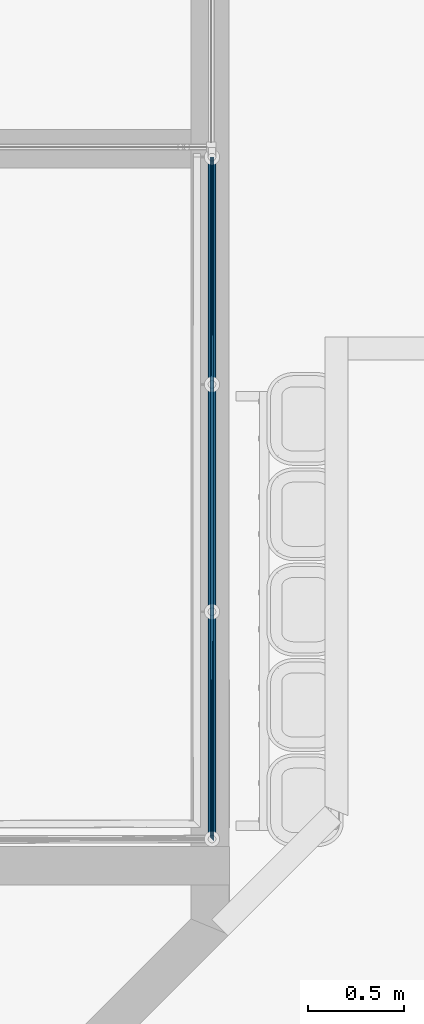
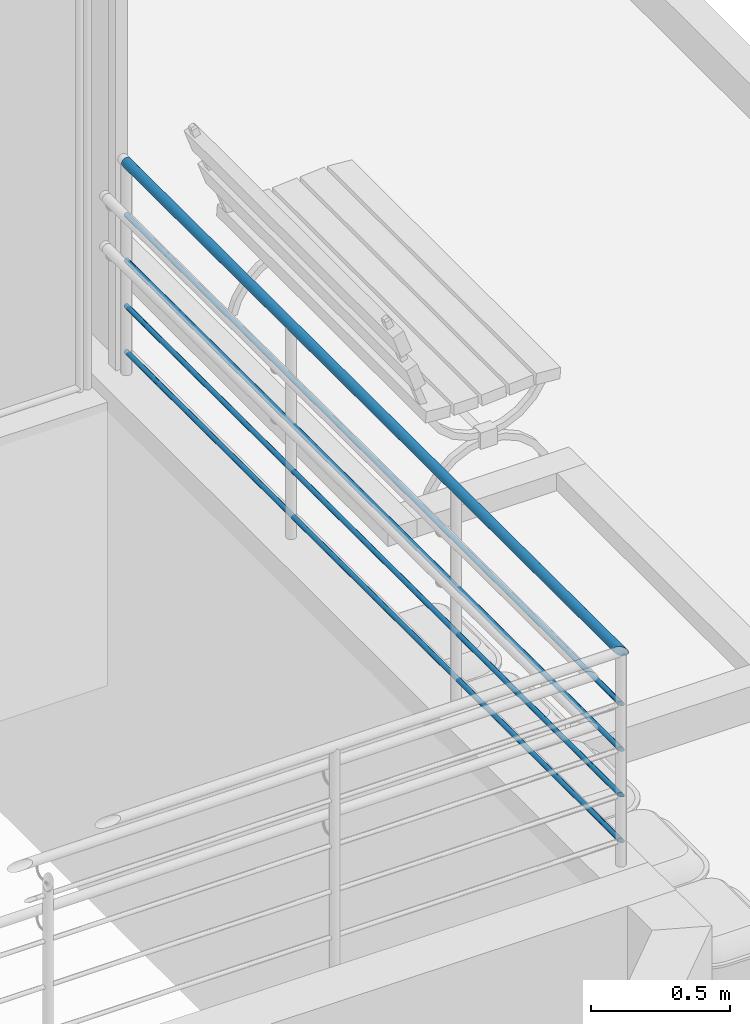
# One storey, part 71 of 237: 6 building element parts, 1 element without a shape of its own.
"""IFC2X3 building model written with IfcOpenShell, lengths in millimetres."""

from ifc_helpers import new_model, entity, si_unit, converted_unit, derived_unit, money_unit, direction, frame, origin_with_axes, place, context, subcontext, project, spatial, faceted_brep, material, type_object, element, aggregate, save


model = new_model("IFC2X3")

# Units and contexts
model_context = context("Model", 3, precision=0.01, world=origin_with_axes(), true_north=direction((0.0, 1.0)))
body_context = subcontext(model_context, "Body", "Model", "MODEL_VIEW")
ifc_project = project(units=[si_unit("LENGTHUNIT", "METRE", prefix="MILLI"), si_unit("AREAUNIT", "SQUARE_METRE"), si_unit("VOLUMEUNIT", "CUBIC_METRE"), converted_unit("PLANEANGLEUNIT", "DEGREE", entity("IfcPlaneAngleMeasure", 0.0174532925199), si_unit("PLANEANGLEUNIT", "RADIAN"), dimensions=[0, 0, 0, 0, 0, 0, 0]), money_unit("USD"), converted_unit("TIMEUNIT", "Year", entity("IfcTimeMeasure", 31556926.0), si_unit("TIMEUNIT", "SECOND"), dimensions=[0, 0, 1, 0, 0, 0, 0]), si_unit("MASSUNIT", "GRAM", prefix="KILO"), si_unit("THERMODYNAMICTEMPERATUREUNIT", "DEGREE_CELSIUS"), si_unit("LUMINOUSINTENSITYUNIT", "LUMEN"), si_unit("ENERGYUNIT", "JOULE", prefix="MEGA"), derived_unit("THERMALCONDUCTANCEUNIT", [(si_unit("POWERUNIT", "WATT"), 1), (si_unit("LENGTHUNIT", "METRE"), -1), (si_unit("THERMODYNAMICTEMPERATUREUNIT", "KELVIN"), -1)]), derived_unit("SPECIFICHEATCAPACITYUNIT", [(si_unit("ENERGYUNIT", "JOULE"), 1), (si_unit("MASSUNIT", "GRAM", prefix="KILO"), -1), (si_unit("THERMODYNAMICTEMPERATUREUNIT", "KELVIN"), -1)]), derived_unit("MASSDENSITYUNIT", [(si_unit("MASSUNIT", "GRAM", prefix="KILO"), 1), (si_unit("VOLUMEUNIT", "CUBIC_METRE"), -1)])], contexts=[model_context])

# Site, building, storey
site_placement = place(None, origin_with_axes())
site = spatial("IfcSite", under=ifc_project, at=site_placement, Name="Local", CompositionType="ELEMENT")
building_placement = place(site_placement, origin_with_axes())
building = spatial("IfcBuilding", under=site, at=building_placement, Name="Construção", CompositionType="ELEMENT")
storey_placement = place(building_placement, origin_with_axes())
storey = spatial("IfcBuildingStorey", under=building, at=storey_placement, Name="Pavimento Térreo", CompositionType="ELEMENT", Elevation=0.0)

# Railing, building element parts
railing_type = type_object("IfcRailingType", Name="Tipo de Guarda-Corpo", PredefinedType="NOTDEFINED")
railing_placement = place(storey_placement, frame((84562.8908804, 21657.2175927, -4868.39227091), z_axis=(0.0, 0.0, 1.0), x_axis=(1.0, 0.0, 0.0)))
railing = element("IfcRailing", 1, at=railing_placement, inside=storey, type_object=railing_type, Name="Guarda-Corpo - 002", PredefinedType="NOTDEFINED")
ifc_material = material(Name="Aço - Inoxidável")
building_element_part_1_placement = place(railing_placement, origin_with_axes())
building_element_part_1 = element("IfcBuildingElementPart", 2, at=building_element_part_1_placement, material=ifc_material, Name="Aço - Inoxidável", context=body_context, shape_type="Brep", body=[
    faceted_brep([(2090.46735024, 2059.76498575, 2388.42521657), (2090.77690673, 2059.46752842, 2391.89817311), (2090.80401409, 5592.20155853, 2381.85728552), (2090.76548122, 2059.45607799, 2384.95226002), (2091.6622411, 2058.55019116, 2381.58482751), (2093.13038228, 2057.07485017, 2378.42523675), (2095.12529605, 2055.0748825, 2375.56949032), (2097.58636796, 2052.61105617, 2373.10435862), (2100.43881958, 2049.75823328, 2371.10474344), (2103.59598061, 2046.60309543, 2369.63140208), (2106.96192231, 2043.24150987, 2368.72910125), (2110.43437225, 2039.77561668, 2368.42525693), (2113.90782179, 2036.31072527, 2368.72910125), (2117.27673193, 2032.95211462, 2369.63140208), (2120.43874003, 2029.80183441, 2371.10474344), (2123.29777009, 2026.95560431, 2373.10435862), (2125.76695191, 2024.49990558, 2375.56949032), (2127.77126066, 2022.50935339, 2378.42523675), (2129.24979644, 2021.04442965, 2381.58482751), (2130.15763467, 2020.14964533, 2384.95226002), (2130.46719116, 2019.85218801, 2388.42521657), (2130.16906018, 2020.16109576, 2391.89817311), (2129.2723003, 2021.06698259, 2395.26560563), (2127.80415911, 2022.54232359, 2398.42519639), (2125.80924534, 2024.54229125, 2401.28094282), (2123.34817344, 2027.00611759, 2403.74607452), (2120.49572182, 2029.85894047, 2405.74568969), (2117.33856079, 2033.01407833, 2407.21903106), (2113.97261909, 2036.37566389, 2408.12133189), (2110.50016915, 2039.84155707, 2408.42517621), (2107.02671961, 2043.30644848, 2408.12133189), (2103.65780947, 2046.66505913, 2407.21903106), (2100.49580137, 2049.81533934, 2405.74568969), (2097.63677131, 2052.66156944, 2403.74607452), (2095.16758949, 2055.11726817, 2401.28094282), (2093.16328074, 2057.10782036, 2398.42519639), (2091.68474496, 2058.5727441, 2395.26560563), (2091.70631674, 5592.2110766, 2385.22471138), (2090.50016915, 5592.1917422, 2378.38433584), (2090.80401409, 5592.18192586, 2374.91138616), (2091.70631674, 5592.17240779, 2371.54396029), (2093.17966108, 5592.16347719, 2368.38437578), (2095.17928029, 5592.1554054, 2365.528635), (2097.64441696, 5592.14843769, 2363.06350817), (2100.50016915, 5592.14278577, 2361.06389695), (2103.65976628, 5592.13862136, 2359.59055849), (2107.0272056, 5592.136071, 2358.68825945), (2110.50016915, 5592.13521218, 2358.38441573), (2113.9731327, 5592.136071, 2358.68825945), (2117.34057202, 5592.13862136, 2359.59055849), (2120.50016915, 5592.14278577, 2361.06389695), (2123.35592134, 5592.14843769, 2363.06350817), (2125.82105801, 5592.1554054, 2365.528635), (2127.82067723, 5592.16347719, 2368.38437578), (2129.29402157, 5592.17240779, 2371.54396029), (2130.19632421, 5592.18192586, 2374.91138616), (2130.50016915, 5592.1917422, 2378.38433584), (2130.19632421, 5592.20155853, 2381.85728552), (2129.29402157, 5592.2110766, 2385.22471138), (2127.82067723, 5592.2200072, 2388.38429589), (2125.82105801, 5592.22807899, 2391.24003668), (2123.35592134, 5592.2350467, 2393.7051635), (2120.50016915, 5592.24069862, 2395.70477472), (2117.34057202, 5592.24486303, 2397.17811318), (2113.9731327, 5592.24741339, 2398.08041222), (2110.50016915, 5592.24827221, 2398.38425594), (2107.0272056, 5592.24741339, 2398.08041222), (2103.65976628, 5592.24486303, 2397.17811318), (2100.50016915, 5592.24069862, 2395.70477472), (2097.64441696, 5592.2350467, 2393.7051635), (2095.17928029, 5592.22807899, 2391.24003668), (2093.17966108, 5592.2200072, 2388.38429589)], [[[0, 1, 2]], [[0, 3, 4, 5, 6, 7, 8, 9, 10, 11, 12, 13, 14, 15, 16, 17, 18, 19, 20, 21, 22, 23, 24, 25, 26, 27, 28, 29, 30, 31, 32, 33, 34, 35, 36, 1]], [[1, 37, 2]], [[0, 2, 38]], [[3, 0, 38]], [[4, 3, 39]], [[5, 4, 40]], [[6, 5, 41]], [[7, 6, 42]], [[8, 7, 43]], [[9, 8, 44]], [[10, 9, 45]], [[11, 10, 46]], [[12, 11, 47]], [[13, 12, 48]], [[14, 13, 49]], [[15, 14, 50]], [[16, 15, 51]], [[17, 16, 52]], [[18, 17, 53]], [[19, 18, 54]], [[20, 19, 55]], [[21, 20, 56]], [[22, 21, 57]], [[23, 22, 58]], [[24, 23, 59]], [[25, 24, 60]], [[26, 25, 61]], [[27, 26, 62]], [[28, 27, 63]], [[29, 28, 64]], [[30, 29, 65]], [[31, 30, 66]], [[32, 31, 67]], [[33, 32, 68]], [[34, 33, 69]], [[35, 34, 70]], [[36, 35, 71]], [[1, 36, 37]], [[38, 2, 37, 71, 70, 69, 68, 67, 66, 65, 64, 63, 62, 61, 60, 59, 58, 57, 56, 55, 54, 53, 52, 51, 50, 49, 48, 47, 46, 45, 44, 43, 42, 41, 40, 39]], [[3, 38, 39]], [[4, 39, 40]], [[5, 40, 41]], [[6, 41, 42]], [[7, 42, 43]], [[8, 43, 44]], [[9, 44, 45]], [[10, 45, 46]], [[11, 46, 47]], [[12, 47, 48]], [[13, 48, 49]], [[14, 49, 50]], [[15, 50, 51]], [[16, 51, 52]], [[17, 52, 53]], [[18, 53, 54]], [[19, 54, 55]], [[20, 55, 56]], [[21, 56, 57]], [[22, 57, 58]], [[23, 58, 59]], [[24, 59, 60]], [[25, 60, 61]], [[26, 61, 62]], [[27, 62, 63]], [[28, 63, 64]], [[29, 64, 65]], [[30, 65, 66]], [[31, 66, 67]], [[32, 67, 68]], [[33, 68, 69]], [[34, 69, 70]], [[35, 70, 71]], [[36, 71, 37]]]),
])
building_element_part_2_placement = place(railing_placement, origin_with_axes())
building_element_part_2 = element("IfcBuildingElementPart", 3, at=building_element_part_2_placement, material=ifc_material, Name="Aço - Inoxidável", context=body_context, shape_type="Brep", body=[
    faceted_brep([(2100.50020892, 2049.81975651, 1558.42517621), (2100.65498717, 2049.67102785, 1560.16165448), (2100.65209162, 5592.25318038, 1550.12073078), (2100.64927441, 2049.66530263, 1556.68869794), (2101.09765435, 2049.21235922, 1555.00498168), (2101.83172494, 2048.47468872, 1553.4251863), (2102.82918183, 2047.47470489, 1551.99731309), (2104.05971778, 2046.24279172, 1550.76474724), (2105.48594359, 2044.81638028, 1549.76493965), (2107.0645241, 2043.23881135, 1549.02826897), (2108.74749496, 2041.55801857, 1548.57711855), (2110.48371992, 2039.82507198, 1548.42519639), (2112.2204447, 2038.09262627, 1548.57711855), (2113.90489977, 2036.41332095, 1549.02826897), (2115.48590382, 2034.83818084, 1549.76493965), (2116.91541884, 2033.41506579, 1550.76474724), (2118.15000976, 2032.18721643, 1551.99731309), (2119.15216413, 2031.19194033, 1553.4251863), (2119.89143202, 2030.45947846, 1555.00498168), (2120.34535114, 2030.0120863, 1556.68869794), (2120.50012938, 2029.86335764, 1558.42517621), (2120.35106389, 2030.01781152, 1560.16165448), (2119.90268395, 2030.47075493, 1561.84537074), (2119.16861336, 2031.20842543, 1563.42516612), (2118.17115647, 2032.20840926, 1564.85303934), (2116.94062052, 2033.44032243, 1566.08560519), (2115.51439471, 2034.86673387, 1567.08541277), (2113.9358142, 2036.4443028, 1567.82208346), (2112.25284335, 2038.12509558, 1568.27323387), (2110.51661838, 2039.85804217, 1568.42515603), (2108.77989361, 2041.59048788, 1568.27323387), (2107.09543854, 2043.2697932, 1567.82208346), (2105.51443448, 2044.84493331, 1567.08541277), (2104.08491946, 2046.26804836, 1566.08560519), (2102.85032854, 2047.49589772, 1564.85303934), (2101.84817417, 2048.49117382, 1563.42516612), (2101.10890628, 2049.22363569, 1561.84537074), (2101.10324294, 5592.25793941, 1551.80444372), (2100.50016915, 5592.24827221, 1548.38425594), (2100.65209162, 5592.24336404, 1546.6477811), (2101.10324294, 5592.23860501, 1544.96406817), (2101.83991511, 5592.23413971, 1543.38427592), (2102.83972472, 5592.23010381, 1541.95640552), (2104.07229305, 5592.22661996, 1540.72384211), (2105.50016915, 5592.223794, 1539.7240365), (2107.07996772, 5592.22171179, 1538.98736727), (2108.76368737, 5592.22043661, 1538.53621775), (2110.50016915, 5592.2200072, 1538.38429589), (2112.23665093, 5592.22043661, 1538.53621775), (2113.92037058, 5592.22171179, 1538.98736727), (2115.50016915, 5592.223794, 1539.7240365), (2116.92804525, 5592.22661996, 1540.72384211), (2118.16061358, 5592.23010381, 1541.95640552), (2119.16042319, 5592.23413971, 1543.38427592), (2119.89709536, 5592.23860501, 1544.96406817), (2120.34824668, 5592.24336404, 1546.6477811), (2120.50016915, 5592.24827221, 1548.38425594), (2120.34824668, 5592.25318038, 1550.12073078), (2119.89709536, 5592.25793941, 1551.80444372), (2119.16042319, 5592.26240471, 1553.38423597), (2118.16061358, 5592.26644061, 1554.81210637), (2116.92804525, 5592.26992446, 1556.04466978), (2115.50016915, 5592.27275042, 1557.04447539), (2113.92037058, 5592.27483263, 1557.78114462), (2112.23665093, 5592.27610781, 1558.23229414), (2110.50016915, 5592.27653722, 1558.384216), (2108.76368737, 5592.27610781, 1558.23229414), (2107.07996772, 5592.27483263, 1557.78114462), (2105.50016915, 5592.27275042, 1557.04447539), (2104.07229305, 5592.26992446, 1556.04466978), (2102.83972472, 5592.26644061, 1554.81210637), (2101.83991511, 5592.26240471, 1553.38423597)], [[[0, 1, 2]], [[0, 3, 4, 5, 6, 7, 8, 9, 10, 11, 12, 13, 14, 15, 16, 17, 18, 19, 20, 21, 22, 23, 24, 25, 26, 27, 28, 29, 30, 31, 32, 33, 34, 35, 36, 1]], [[1, 37, 2]], [[0, 2, 38]], [[3, 0, 38]], [[4, 3, 39]], [[5, 4, 40]], [[6, 5, 41]], [[7, 6, 42]], [[8, 7, 43]], [[9, 8, 44]], [[10, 9, 45]], [[11, 10, 46]], [[12, 11, 47]], [[13, 12, 48]], [[14, 13, 49]], [[15, 14, 50]], [[16, 15, 51]], [[17, 16, 52]], [[18, 17, 53]], [[19, 18, 54]], [[20, 19, 55]], [[21, 20, 56]], [[22, 21, 57]], [[23, 22, 58]], [[24, 23, 59]], [[25, 24, 60]], [[26, 25, 61]], [[27, 26, 62]], [[28, 27, 63]], [[29, 28, 64]], [[30, 29, 65]], [[31, 30, 66]], [[32, 31, 67]], [[33, 32, 68]], [[34, 33, 69]], [[35, 34, 70]], [[36, 35, 71]], [[1, 36, 37]], [[38, 2, 37, 71, 70, 69, 68, 67, 66, 65, 64, 63, 62, 61, 60, 59, 58, 57, 56, 55, 54, 53, 52, 51, 50, 49, 48, 47, 46, 45, 44, 43, 42, 41, 40, 39]], [[3, 38, 39]], [[4, 39, 40]], [[5, 40, 41]], [[6, 41, 42]], [[7, 42, 43]], [[8, 43, 44]], [[9, 44, 45]], [[10, 45, 46]], [[11, 46, 47]], [[12, 47, 48]], [[13, 48, 49]], [[14, 49, 50]], [[15, 50, 51]], [[16, 51, 52]], [[17, 52, 53]], [[18, 53, 54]], [[19, 54, 55]], [[20, 55, 56]], [[21, 56, 57]], [[22, 57, 58]], [[23, 58, 59]], [[24, 59, 60]], [[25, 60, 61]], [[26, 61, 62]], [[27, 62, 63]], [[28, 63, 64]], [[29, 64, 65]], [[30, 65, 66]], [[31, 66, 67]], [[32, 67, 68]], [[33, 68, 69]], [[34, 69, 70]], [[35, 70, 71]], [[36, 71, 37]]]),
])
building_element_part_3_placement = place(railing_placement, origin_with_axes())
building_element_part_3 = element("IfcBuildingElementPart", 4, at=building_element_part_3_placement, material=ifc_material, Name="Aço - Inoxidável", context=body_context, shape_type="Brep", body=[
    faceted_brep([(2100.50020892, 2049.81975651, 1758.42517621), (2100.65498717, 2049.67102785, 1760.16165448), (2100.65209162, 5592.25318038, 1750.12073078), (2100.64927441, 2049.66530263, 1756.68869794), (2101.09765435, 2049.21235922, 1755.00498168), (2101.83172494, 2048.47468872, 1753.4251863), (2102.82918183, 2047.47470489, 1751.99731309), (2104.05971778, 2046.24279172, 1750.76474724), (2105.48594359, 2044.81638028, 1749.76493965), (2107.0645241, 2043.23881135, 1749.02826897), (2108.74749496, 2041.55801857, 1748.57711855), (2110.48371992, 2039.82507198, 1748.42519639), (2112.2204447, 2038.09262627, 1748.57711855), (2113.90489977, 2036.41332095, 1749.02826897), (2115.48590382, 2034.83818084, 1749.76493965), (2116.91541884, 2033.41506579, 1750.76474724), (2118.15000976, 2032.18721643, 1751.99731309), (2119.15216413, 2031.19194033, 1753.4251863), (2119.89143202, 2030.45947846, 1755.00498168), (2120.34535114, 2030.0120863, 1756.68869794), (2120.50012938, 2029.86335764, 1758.42517621), (2120.35106389, 2030.01781152, 1760.16165448), (2119.90268395, 2030.47075493, 1761.84537074), (2119.16861336, 2031.20842543, 1763.42516612), (2118.17115647, 2032.20840926, 1764.85303934), (2116.94062052, 2033.44032243, 1766.08560519), (2115.51439471, 2034.86673387, 1767.08541277), (2113.9358142, 2036.4443028, 1767.82208346), (2112.25284335, 2038.12509558, 1768.27323387), (2110.51661838, 2039.85804217, 1768.42515603), (2108.77989361, 2041.59048788, 1768.27323387), (2107.09543854, 2043.2697932, 1767.82208346), (2105.51443448, 2044.84493331, 1767.08541277), (2104.08491946, 2046.26804836, 1766.08560519), (2102.85032854, 2047.49589772, 1764.85303934), (2101.84817417, 2048.49117382, 1763.42516612), (2101.10890628, 2049.22363569, 1761.84537074), (2101.10324294, 5592.25793941, 1751.80444372), (2100.50016915, 5592.24827221, 1748.38425594), (2100.65209162, 5592.24336404, 1746.6477811), (2101.10324294, 5592.23860501, 1744.96406817), (2101.83991511, 5592.23413971, 1743.38427592), (2102.83972472, 5592.23010381, 1741.95640552), (2104.07229305, 5592.22661996, 1740.72384211), (2105.50016915, 5592.223794, 1739.7240365), (2107.07996772, 5592.22171179, 1738.98736727), (2108.76368737, 5592.22043661, 1738.53621775), (2110.50016915, 5592.2200072, 1738.38429589), (2112.23665093, 5592.22043661, 1738.53621775), (2113.92037058, 5592.22171179, 1738.98736727), (2115.50016915, 5592.223794, 1739.7240365), (2116.92804525, 5592.22661996, 1740.72384211), (2118.16061358, 5592.23010381, 1741.95640552), (2119.16042319, 5592.23413971, 1743.38427592), (2119.89709536, 5592.23860501, 1744.96406817), (2120.34824668, 5592.24336404, 1746.6477811), (2120.50016915, 5592.24827221, 1748.38425594), (2120.34824668, 5592.25318038, 1750.12073078), (2119.89709536, 5592.25793941, 1751.80444372), (2119.16042319, 5592.26240471, 1753.38423597), (2118.16061358, 5592.26644061, 1754.81210637), (2116.92804525, 5592.26992446, 1756.04466978), (2115.50016915, 5592.27275042, 1757.04447539), (2113.92037058, 5592.27483263, 1757.78114462), (2112.23665093, 5592.27610781, 1758.23229414), (2110.50016915, 5592.27653722, 1758.384216), (2108.76368737, 5592.27610781, 1758.23229414), (2107.07996772, 5592.27483263, 1757.78114462), (2105.50016915, 5592.27275042, 1757.04447539), (2104.07229305, 5592.26992446, 1756.04466978), (2102.83972472, 5592.26644061, 1754.81210637), (2101.83991511, 5592.26240471, 1753.38423597)], [[[0, 1, 2]], [[0, 3, 4, 5, 6, 7, 8, 9, 10, 11, 12, 13, 14, 15, 16, 17, 18, 19, 20, 21, 22, 23, 24, 25, 26, 27, 28, 29, 30, 31, 32, 33, 34, 35, 36, 1]], [[1, 37, 2]], [[0, 2, 38]], [[3, 0, 38]], [[4, 3, 39]], [[5, 4, 40]], [[6, 5, 41]], [[7, 6, 42]], [[8, 7, 43]], [[9, 8, 44]], [[10, 9, 45]], [[11, 10, 46]], [[12, 11, 47]], [[13, 12, 48]], [[14, 13, 49]], [[15, 14, 50]], [[16, 15, 51]], [[17, 16, 52]], [[18, 17, 53]], [[19, 18, 54]], [[20, 19, 55]], [[21, 20, 56]], [[22, 21, 57]], [[23, 22, 58]], [[24, 23, 59]], [[25, 24, 60]], [[26, 25, 61]], [[27, 26, 62]], [[28, 27, 63]], [[29, 28, 64]], [[30, 29, 65]], [[31, 30, 66]], [[32, 31, 67]], [[33, 32, 68]], [[34, 33, 69]], [[35, 34, 70]], [[36, 35, 71]], [[1, 36, 37]], [[38, 2, 37, 71, 70, 69, 68, 67, 66, 65, 64, 63, 62, 61, 60, 59, 58, 57, 56, 55, 54, 53, 52, 51, 50, 49, 48, 47, 46, 45, 44, 43, 42, 41, 40, 39]], [[3, 38, 39]], [[4, 39, 40]], [[5, 40, 41]], [[6, 41, 42]], [[7, 42, 43]], [[8, 43, 44]], [[9, 44, 45]], [[10, 45, 46]], [[11, 46, 47]], [[12, 47, 48]], [[13, 48, 49]], [[14, 49, 50]], [[15, 50, 51]], [[16, 51, 52]], [[17, 52, 53]], [[18, 53, 54]], [[19, 54, 55]], [[20, 55, 56]], [[21, 56, 57]], [[22, 57, 58]], [[23, 58, 59]], [[24, 59, 60]], [[25, 60, 61]], [[26, 61, 62]], [[27, 62, 63]], [[28, 63, 64]], [[29, 64, 65]], [[30, 65, 66]], [[31, 66, 67]], [[32, 67, 68]], [[33, 68, 69]], [[34, 69, 70]], [[35, 70, 71]], [[36, 71, 37]]]),
])
building_element_part_4_placement = place(railing_placement, origin_with_axes())
building_element_part_4 = element("IfcBuildingElementPart", 5, at=building_element_part_4_placement, material=ifc_material, Name="Aço - Inoxidável", context=body_context, shape_type="Brep", body=[
    faceted_brep([(2100.50020892, 2049.81975651, 1758.42517621), (2100.65498717, 2049.67102785, 1760.16165448), (2100.65209162, 5592.25318038, 1750.12073078), (2100.64927441, 2049.66530263, 1756.68869794), (2101.09765435, 2049.21235922, 1755.00498168), (2101.83172494, 2048.47468872, 1753.4251863), (2102.82918183, 2047.47470489, 1751.99731309), (2104.05971778, 2046.24279172, 1750.76474724), (2105.48594359, 2044.81638028, 1749.76493965), (2107.0645241, 2043.23881135, 1749.02826897), (2108.74749496, 2041.55801857, 1748.57711855), (2110.48371992, 2039.82507198, 1748.42519639), (2112.2204447, 2038.09262627, 1748.57711855), (2113.90489977, 2036.41332095, 1749.02826897), (2115.48590382, 2034.83818084, 1749.76493965), (2116.91541884, 2033.41506579, 1750.76474724), (2118.15000976, 2032.18721643, 1751.99731309), (2119.15216413, 2031.19194033, 1753.4251863), (2119.89143202, 2030.45947846, 1755.00498168), (2120.34535114, 2030.0120863, 1756.68869794), (2120.50012938, 2029.86335764, 1758.42517621), (2120.35106389, 2030.01781152, 1760.16165448), (2119.90268395, 2030.47075493, 1761.84537074), (2119.16861336, 2031.20842543, 1763.42516612), (2118.17115647, 2032.20840926, 1764.85303934), (2116.94062052, 2033.44032243, 1766.08560519), (2115.51439471, 2034.86673387, 1767.08541277), (2113.9358142, 2036.4443028, 1767.82208346), (2112.25284335, 2038.12509558, 1768.27323387), (2110.51661838, 2039.85804217, 1768.42515603), (2108.77989361, 2041.59048788, 1768.27323387), (2107.09543854, 2043.2697932, 1767.82208346), (2105.51443448, 2044.84493331, 1767.08541277), (2104.08491946, 2046.26804836, 1766.08560519), (2102.85032854, 2047.49589772, 1764.85303934), (2101.84817417, 2048.49117382, 1763.42516612), (2101.10890628, 2049.22363569, 1761.84537074), (2101.10324294, 5592.25793941, 1751.80444372), (2100.50016915, 5592.24827221, 1748.38425594), (2100.65209162, 5592.24336404, 1746.6477811), (2101.10324294, 5592.23860501, 1744.96406817), (2101.83991511, 5592.23413971, 1743.38427592), (2102.83972472, 5592.23010381, 1741.95640552), (2104.07229305, 5592.22661996, 1740.72384211), (2105.50016915, 5592.223794, 1739.7240365), (2107.07996772, 5592.22171179, 1738.98736727), (2108.76368737, 5592.22043661, 1738.53621775), (2110.50016915, 5592.2200072, 1738.38429589), (2112.23665093, 5592.22043661, 1738.53621775), (2113.92037058, 5592.22171179, 1738.98736727), (2115.50016915, 5592.223794, 1739.7240365), (2116.92804525, 5592.22661996, 1740.72384211), (2118.16061358, 5592.23010381, 1741.95640552), (2119.16042319, 5592.23413971, 1743.38427592), (2119.89709536, 5592.23860501, 1744.96406817), (2120.34824668, 5592.24336404, 1746.6477811), (2120.50016915, 5592.24827221, 1748.38425594), (2120.34824668, 5592.25318038, 1750.12073078), (2119.89709536, 5592.25793941, 1751.80444372), (2119.16042319, 5592.26240471, 1753.38423597), (2118.16061358, 5592.26644061, 1754.81210637), (2116.92804525, 5592.26992446, 1756.04466978), (2115.50016915, 5592.27275042, 1757.04447539), (2113.92037058, 5592.27483263, 1757.78114462), (2112.23665093, 5592.27610781, 1758.23229414), (2110.50016915, 5592.27653722, 1758.384216), (2108.76368737, 5592.27610781, 1758.23229414), (2107.07996772, 5592.27483263, 1757.78114462), (2105.50016915, 5592.27275042, 1757.04447539), (2104.07229305, 5592.26992446, 1756.04466978), (2102.83972472, 5592.26644061, 1754.81210637), (2101.83991511, 5592.26240471, 1753.38423597)], [[[0, 1, 2]], [[0, 3, 4, 5, 6, 7, 8, 9, 10, 11, 12, 13, 14, 15, 16, 17, 18, 19, 20, 21, 22, 23, 24, 25, 26, 27, 28, 29, 30, 31, 32, 33, 34, 35, 36, 1]], [[1, 37, 2]], [[0, 2, 38]], [[3, 0, 38]], [[4, 3, 39]], [[5, 4, 40]], [[6, 5, 41]], [[7, 6, 42]], [[8, 7, 43]], [[9, 8, 44]], [[10, 9, 45]], [[11, 10, 46]], [[12, 11, 47]], [[13, 12, 48]], [[14, 13, 49]], [[15, 14, 50]], [[16, 15, 51]], [[17, 16, 52]], [[18, 17, 53]], [[19, 18, 54]], [[20, 19, 55]], [[21, 20, 56]], [[22, 21, 57]], [[23, 22, 58]], [[24, 23, 59]], [[25, 24, 60]], [[26, 25, 61]], [[27, 26, 62]], [[28, 27, 63]], [[29, 28, 64]], [[30, 29, 65]], [[31, 30, 66]], [[32, 31, 67]], [[33, 32, 68]], [[34, 33, 69]], [[35, 34, 70]], [[36, 35, 71]], [[1, 36, 37]], [[38, 2, 37, 71, 70, 69, 68, 67, 66, 65, 64, 63, 62, 61, 60, 59, 58, 57, 56, 55, 54, 53, 52, 51, 50, 49, 48, 47, 46, 45, 44, 43, 42, 41, 40, 39]], [[3, 38, 39]], [[4, 39, 40]], [[5, 40, 41]], [[6, 41, 42]], [[7, 42, 43]], [[8, 43, 44]], [[9, 44, 45]], [[10, 45, 46]], [[11, 46, 47]], [[12, 47, 48]], [[13, 48, 49]], [[14, 49, 50]], [[15, 50, 51]], [[16, 51, 52]], [[17, 52, 53]], [[18, 53, 54]], [[19, 54, 55]], [[20, 55, 56]], [[21, 56, 57]], [[22, 57, 58]], [[23, 58, 59]], [[24, 59, 60]], [[25, 60, 61]], [[26, 61, 62]], [[27, 62, 63]], [[28, 63, 64]], [[29, 64, 65]], [[30, 65, 66]], [[31, 66, 67]], [[32, 67, 68]], [[33, 68, 69]], [[34, 69, 70]], [[35, 70, 71]], [[36, 71, 37]]]),
])
building_element_part_5_placement = place(railing_placement, origin_with_axes())
building_element_part_5 = element("IfcBuildingElementPart", 6, at=building_element_part_5_placement, material=ifc_material, Name="Aço - Inoxidável", context=body_context, shape_type="Brep", body=[
    faceted_brep([(2100.50020892, 2049.81975651, 1958.42517621), (2100.65498717, 2049.67102785, 1960.16165448), (2100.65209162, 5592.25318038, 1950.12073078), (2100.64927441, 2049.66530263, 1956.68869794), (2101.09765435, 2049.21235922, 1955.00498168), (2101.83172494, 2048.47468872, 1953.4251863), (2102.82918183, 2047.47470489, 1951.99731309), (2104.05971778, 2046.24279172, 1950.76474724), (2105.48594359, 2044.81638028, 1949.76493965), (2107.0645241, 2043.23881135, 1949.02826897), (2108.74749496, 2041.55801857, 1948.57711855), (2110.48371992, 2039.82507198, 1948.42519639), (2112.2204447, 2038.09262627, 1948.57711855), (2113.90489977, 2036.41332095, 1949.02826897), (2115.48590382, 2034.83818084, 1949.76493965), (2116.91541884, 2033.41506579, 1950.76474724), (2118.15000976, 2032.18721643, 1951.99731309), (2119.15216413, 2031.19194033, 1953.4251863), (2119.89143202, 2030.45947846, 1955.00498168), (2120.34535114, 2030.0120863, 1956.68869794), (2120.50012938, 2029.86335764, 1958.42517621), (2120.35106389, 2030.01781152, 1960.16165448), (2119.90268395, 2030.47075493, 1961.84537074), (2119.16861336, 2031.20842543, 1963.42516612), (2118.17115647, 2032.20840926, 1964.85303934), (2116.94062052, 2033.44032243, 1966.08560519), (2115.51439471, 2034.86673387, 1967.08541277), (2113.9358142, 2036.4443028, 1967.82208346), (2112.25284335, 2038.12509558, 1968.27323387), (2110.51661838, 2039.85804217, 1968.42515603), (2108.77989361, 2041.59048788, 1968.27323387), (2107.09543854, 2043.2697932, 1967.82208346), (2105.51443448, 2044.84493331, 1967.08541277), (2104.08491946, 2046.26804836, 1966.08560519), (2102.85032854, 2047.49589772, 1964.85303934), (2101.84817417, 2048.49117382, 1963.42516612), (2101.10890628, 2049.22363569, 1961.84537074), (2101.10324294, 5592.25793941, 1951.80444372), (2100.50016915, 5592.24827221, 1948.38425594), (2100.65209162, 5592.24336404, 1946.6477811), (2101.10324294, 5592.23860501, 1944.96406817), (2101.83991511, 5592.23413971, 1943.38427592), (2102.83972472, 5592.23010381, 1941.95640552), (2104.07229305, 5592.22661996, 1940.72384211), (2105.50016915, 5592.223794, 1939.7240365), (2107.07996772, 5592.22171179, 1938.98736727), (2108.76368737, 5592.22043661, 1938.53621775), (2110.50016915, 5592.2200072, 1938.38429589), (2112.23665093, 5592.22043661, 1938.53621775), (2113.92037058, 5592.22171179, 1938.98736727), (2115.50016915, 5592.223794, 1939.7240365), (2116.92804525, 5592.22661996, 1940.72384211), (2118.16061358, 5592.23010381, 1941.95640552), (2119.16042319, 5592.23413971, 1943.38427592), (2119.89709536, 5592.23860501, 1944.96406817), (2120.34824668, 5592.24336404, 1946.6477811), (2120.50016915, 5592.24827221, 1948.38425594), (2120.34824668, 5592.25318038, 1950.12073078), (2119.89709536, 5592.25793941, 1951.80444372), (2119.16042319, 5592.26240471, 1953.38423597), (2118.16061358, 5592.26644061, 1954.81210637), (2116.92804525, 5592.26992446, 1956.04466978), (2115.50016915, 5592.27275042, 1957.04447539), (2113.92037058, 5592.27483263, 1957.78114462), (2112.23665093, 5592.27610781, 1958.23229414), (2110.50016915, 5592.27653722, 1958.384216), (2108.76368737, 5592.27610781, 1958.23229414), (2107.07996772, 5592.27483263, 1957.78114462), (2105.50016915, 5592.27275042, 1957.04447539), (2104.07229305, 5592.26992446, 1956.04466978), (2102.83972472, 5592.26644061, 1954.81210637), (2101.83991511, 5592.26240471, 1953.38423597)], [[[0, 1, 2]], [[0, 3, 4, 5, 6, 7, 8, 9, 10, 11, 12, 13, 14, 15, 16, 17, 18, 19, 20, 21, 22, 23, 24, 25, 26, 27, 28, 29, 30, 31, 32, 33, 34, 35, 36, 1]], [[1, 37, 2]], [[0, 2, 38]], [[3, 0, 38]], [[4, 3, 39]], [[5, 4, 40]], [[6, 5, 41]], [[7, 6, 42]], [[8, 7, 43]], [[9, 8, 44]], [[10, 9, 45]], [[11, 10, 46]], [[12, 11, 47]], [[13, 12, 48]], [[14, 13, 49]], [[15, 14, 50]], [[16, 15, 51]], [[17, 16, 52]], [[18, 17, 53]], [[19, 18, 54]], [[20, 19, 55]], [[21, 20, 56]], [[22, 21, 57]], [[23, 22, 58]], [[24, 23, 59]], [[25, 24, 60]], [[26, 25, 61]], [[27, 26, 62]], [[28, 27, 63]], [[29, 28, 64]], [[30, 29, 65]], [[31, 30, 66]], [[32, 31, 67]], [[33, 32, 68]], [[34, 33, 69]], [[35, 34, 70]], [[36, 35, 71]], [[1, 36, 37]], [[38, 2, 37, 71, 70, 69, 68, 67, 66, 65, 64, 63, 62, 61, 60, 59, 58, 57, 56, 55, 54, 53, 52, 51, 50, 49, 48, 47, 46, 45, 44, 43, 42, 41, 40, 39]], [[3, 38, 39]], [[4, 39, 40]], [[5, 40, 41]], [[6, 41, 42]], [[7, 42, 43]], [[8, 43, 44]], [[9, 44, 45]], [[10, 45, 46]], [[11, 46, 47]], [[12, 47, 48]], [[13, 48, 49]], [[14, 49, 50]], [[15, 50, 51]], [[16, 51, 52]], [[17, 52, 53]], [[18, 53, 54]], [[19, 54, 55]], [[20, 55, 56]], [[21, 56, 57]], [[22, 57, 58]], [[23, 58, 59]], [[24, 59, 60]], [[25, 60, 61]], [[26, 61, 62]], [[27, 62, 63]], [[28, 63, 64]], [[29, 64, 65]], [[30, 65, 66]], [[31, 66, 67]], [[32, 67, 68]], [[33, 68, 69]], [[34, 69, 70]], [[35, 70, 71]], [[36, 71, 37]]]),
])
building_element_part_6_placement = place(railing_placement, origin_with_axes())
building_element_part_6 = element("IfcBuildingElementPart", 7, at=building_element_part_6_placement, material=ifc_material, Name="Aço - Inoxidável", context=body_context, shape_type="Brep", body=[
    faceted_brep([(2100.50020892, 2049.81975651, 2158.42517621), (2100.65498717, 2049.67102785, 2160.16165448), (2100.65209162, 5592.25318038, 2150.12073078), (2100.64927441, 2049.66530263, 2156.68869794), (2101.09765435, 2049.21235922, 2155.00498168), (2101.83172494, 2048.47468872, 2153.4251863), (2102.82918183, 2047.47470489, 2151.99731309), (2104.05971778, 2046.24279172, 2150.76474724), (2105.48594359, 2044.81638028, 2149.76493965), (2107.0645241, 2043.23881135, 2149.02826897), (2108.74749496, 2041.55801857, 2148.57711855), (2110.48371992, 2039.82507198, 2148.42519639), (2112.2204447, 2038.09262627, 2148.57711855), (2113.90489977, 2036.41332095, 2149.02826897), (2115.48590382, 2034.83818084, 2149.76493965), (2116.91541884, 2033.41506579, 2150.76474724), (2118.15000976, 2032.18721643, 2151.99731309), (2119.15216413, 2031.19194033, 2153.4251863), (2119.89143202, 2030.45947846, 2155.00498168), (2120.34535114, 2030.0120863, 2156.68869794), (2120.50012938, 2029.86335764, 2158.42517621), (2120.35106389, 2030.01781152, 2160.16165448), (2119.90268395, 2030.47075493, 2161.84537074), (2119.16861336, 2031.20842543, 2163.42516612), (2118.17115647, 2032.20840926, 2164.85303934), (2116.94062052, 2033.44032243, 2166.08560519), (2115.51439471, 2034.86673387, 2167.08541277), (2113.9358142, 2036.4443028, 2167.82208346), (2112.25284335, 2038.12509558, 2168.27323387), (2110.51661838, 2039.85804217, 2168.42515603), (2108.77989361, 2041.59048788, 2168.27323387), (2107.09543854, 2043.2697932, 2167.82208346), (2105.51443448, 2044.84493331, 2167.08541277), (2104.08491946, 2046.26804836, 2166.08560519), (2102.85032854, 2047.49589772, 2164.85303934), (2101.84817417, 2048.49117382, 2163.42516612), (2101.10890628, 2049.22363569, 2161.84537074), (2101.10324294, 5592.25793941, 2151.80444372), (2100.50016915, 5592.24827221, 2148.38425594), (2100.65209162, 5592.24336404, 2146.6477811), (2101.10324294, 5592.23860501, 2144.96406817), (2101.83991511, 5592.23413971, 2143.38427592), (2102.83972472, 5592.23010381, 2141.95640552), (2104.07229305, 5592.22661996, 2140.72384211), (2105.50016915, 5592.223794, 2139.7240365), (2107.07996772, 5592.22171179, 2138.98736727), (2108.76368737, 5592.22043661, 2138.53621775), (2110.50016915, 5592.2200072, 2138.38429589), (2112.23665093, 5592.22043661, 2138.53621775), (2113.92037058, 5592.22171179, 2138.98736727), (2115.50016915, 5592.223794, 2139.7240365), (2116.92804525, 5592.22661996, 2140.72384211), (2118.16061358, 5592.23010381, 2141.95640552), (2119.16042319, 5592.23413971, 2143.38427592), (2119.89709536, 5592.23860501, 2144.96406817), (2120.34824668, 5592.24336404, 2146.6477811), (2120.50016915, 5592.24827221, 2148.38425594), (2120.34824668, 5592.25318038, 2150.12073078), (2119.89709536, 5592.25793941, 2151.80444372), (2119.16042319, 5592.26240471, 2153.38423597), (2118.16061358, 5592.26644061, 2154.81210637), (2116.92804525, 5592.26992446, 2156.04466978), (2115.50016915, 5592.27275042, 2157.04447539), (2113.92037058, 5592.27483263, 2157.78114462), (2112.23665093, 5592.27610781, 2158.23229414), (2110.50016915, 5592.27653722, 2158.384216), (2108.76368737, 5592.27610781, 2158.23229414), (2107.07996772, 5592.27483263, 2157.78114462), (2105.50016915, 5592.27275042, 2157.04447539), (2104.07229305, 5592.26992446, 2156.04466978), (2102.83972472, 5592.26644061, 2154.81210637), (2101.83991511, 5592.26240471, 2153.38423597)], [[[0, 1, 2]], [[0, 3, 4, 5, 6, 7, 8, 9, 10, 11, 12, 13, 14, 15, 16, 17, 18, 19, 20, 21, 22, 23, 24, 25, 26, 27, 28, 29, 30, 31, 32, 33, 34, 35, 36, 1]], [[1, 37, 2]], [[0, 2, 38]], [[3, 0, 38]], [[4, 3, 39]], [[5, 4, 40]], [[6, 5, 41]], [[7, 6, 42]], [[8, 7, 43]], [[9, 8, 44]], [[10, 9, 45]], [[11, 10, 46]], [[12, 11, 47]], [[13, 12, 48]], [[14, 13, 49]], [[15, 14, 50]], [[16, 15, 51]], [[17, 16, 52]], [[18, 17, 53]], [[19, 18, 54]], [[20, 19, 55]], [[21, 20, 56]], [[22, 21, 57]], [[23, 22, 58]], [[24, 23, 59]], [[25, 24, 60]], [[26, 25, 61]], [[27, 26, 62]], [[28, 27, 63]], [[29, 28, 64]], [[30, 29, 65]], [[31, 30, 66]], [[32, 31, 67]], [[33, 32, 68]], [[34, 33, 69]], [[35, 34, 70]], [[36, 35, 71]], [[1, 36, 37]], [[38, 2, 37, 71, 70, 69, 68, 67, 66, 65, 64, 63, 62, 61, 60, 59, 58, 57, 56, 55, 54, 53, 52, 51, 50, 49, 48, 47, 46, 45, 44, 43, 42, 41, 40, 39]], [[3, 38, 39]], [[4, 39, 40]], [[5, 40, 41]], [[6, 41, 42]], [[7, 42, 43]], [[8, 43, 44]], [[9, 44, 45]], [[10, 45, 46]], [[11, 46, 47]], [[12, 47, 48]], [[13, 48, 49]], [[14, 49, 50]], [[15, 50, 51]], [[16, 51, 52]], [[17, 52, 53]], [[18, 53, 54]], [[19, 54, 55]], [[20, 55, 56]], [[21, 56, 57]], [[22, 57, 58]], [[23, 58, 59]], [[24, 59, 60]], [[25, 60, 61]], [[26, 61, 62]], [[27, 62, 63]], [[28, 63, 64]], [[29, 64, 65]], [[30, 65, 66]], [[31, 66, 67]], [[32, 67, 68]], [[33, 68, 69]], [[34, 69, 70]], [[35, 70, 71]], [[36, 71, 37]]]),
])
aggregate(railing, [building_element_part_1, building_element_part_2, building_element_part_3, building_element_part_4, building_element_part_5, building_element_part_6])

save(model, "model.ifc")
